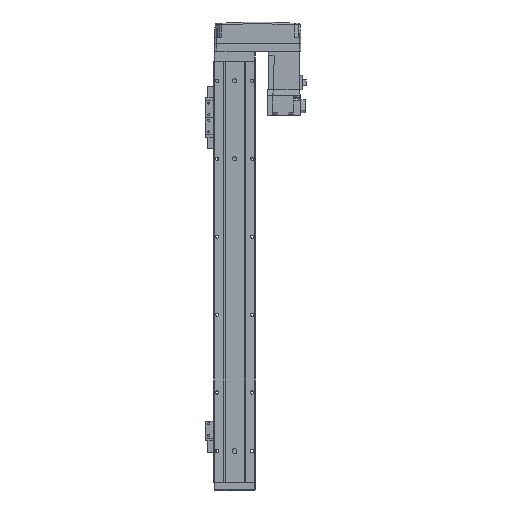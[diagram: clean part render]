
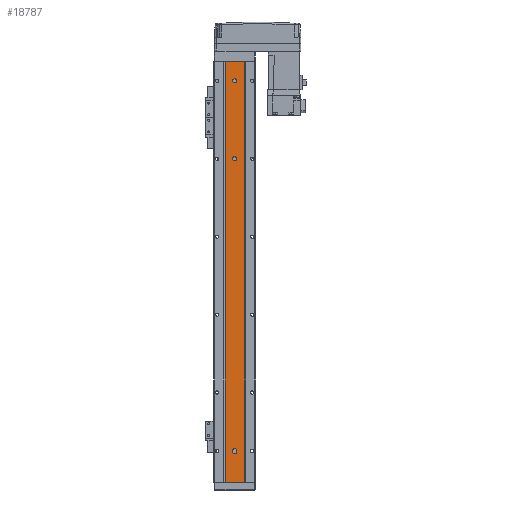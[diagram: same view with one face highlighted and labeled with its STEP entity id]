
A CAD part, front view. The second image highlights one B-rep face of the part: STEP entity #18787.
In plain terms, the highlighted planar face has unit normal (0, -1, 0).
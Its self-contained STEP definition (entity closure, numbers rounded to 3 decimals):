
#173 = CARTESIAN_POINT ( 'NONE',  ( 2.5, 1.5, -540. ) ) ;
#275 = EDGE_LOOP ( 'NONE', ( #17900, #37018 ) ) ;
#458 = CARTESIAN_POINT ( 'NONE',  ( -2.5, 1.5, -125. ) ) ;
#936 = ORIENTED_EDGE ( 'NONE', *, *, #7500, .F. ) ;
#1069 = EDGE_LOOP ( 'NONE', ( #36705, #25778, #24806, #19877 ) ) ;
#1077 = EDGE_CURVE ( 'NONE', #24398, #26416, #10677, .T. ) ;
#1163 = ORIENTED_EDGE ( 'NONE', *, *, #31878, .F. ) ;
#1405 = CIRCLE ( 'NONE', #27692, 2.5 ) ;
#1483 = CARTESIAN_POINT ( 'NONE',  ( 12.293, 1.5, 0. ) ) ;
#1499 = FACE_BOUND ( 'NONE', #20857, .T. ) ;
#2804 = VECTOR ( 'NONE', #28376, 1000. ) ;
#5463 = EDGE_CURVE ( 'NONE', #13238, #11815, #30032, .T. ) ;
#6275 = CIRCLE ( 'NONE', #34651, 2.5 ) ;
#6394 = VERTEX_POINT ( 'NONE', #8750 ) ;
#6531 = CARTESIAN_POINT ( 'NONE',  ( 0., 1.5, -501. ) ) ;
#6676 = CARTESIAN_POINT ( 'NONE',  ( 12.293, 1.5, -540. ) ) ;
#6786 = DIRECTION ( 'NONE',  ( 0., 0., 1. ) ) ;
#7046 = VECTOR ( 'NONE', #20732, 1000. ) ;
#7120 = DIRECTION ( 'NONE',  ( 0., -1., 0. ) ) ;
#7500 = EDGE_CURVE ( 'NONE', #23995, #23468, #15791, .T. ) ;
#7557 = CARTESIAN_POINT ( 'NONE',  ( 2.5, 1.5, -501. ) ) ;
#7659 = CIRCLE ( 'NONE', #30351, 2.5 ) ;
#8750 = CARTESIAN_POINT ( 'NONE',  ( -2.5, 1.5, -25. ) ) ;
#8821 = DIRECTION ( 'NONE',  ( 1., 0., 0. ) ) ;
#9648 = DIRECTION ( 'NONE',  ( 0., 0., -1. ) ) ;
#9722 = CARTESIAN_POINT ( 'NONE',  ( 0., 1.5, -25. ) ) ;
#10362 = CARTESIAN_POINT ( 'NONE',  ( 2.5, 1.5, -499. ) ) ;
#10482 = DIRECTION ( 'NONE',  ( 0., -1., 0. ) ) ;
#10677 = LINE ( 'NONE', #34472, #7046 ) ;
#10877 = VECTOR ( 'NONE', #25861, 1000. ) ;
#10925 = CARTESIAN_POINT ( 'NONE',  ( 12.293, 1.5, -540. ) ) ;
#11629 = EDGE_CURVE ( 'NONE', #11815, #13238, #6275, .T. ) ;
#11815 = VERTEX_POINT ( 'NONE', #25361 ) ;
#12347 = DIRECTION ( 'NONE',  ( 0., -1., 0. ) ) ;
#12528 = CARTESIAN_POINT ( 'NONE',  ( -12.293, 1.5, 0. ) ) ;
#12879 = DIRECTION ( 'NONE',  ( 0., -1., 0. ) ) ;
#13238 = VERTEX_POINT ( 'NONE', #458 ) ;
#13319 = DIRECTION ( 'NONE',  ( 1., 0., 0. ) ) ;
#13514 = EDGE_LOOP ( 'NONE', ( #1163, #27554, #23021, #936 ) ) ;
#13636 = LINE ( 'NONE', #18146, #14063 ) ;
#13865 = AXIS2_PLACEMENT_3D ( 'NONE', #17584, #12347, #32081 ) ;
#14063 = VECTOR ( 'NONE', #9648, 1000. ) ;
#14303 = EDGE_CURVE ( 'NONE', #6394, #21441, #1405, .T. ) ;
#15412 = VERTEX_POINT ( 'NONE', #26062 ) ;
#15791 = LINE ( 'NONE', #173, #10877 ) ;
#15863 = CARTESIAN_POINT ( 'NONE',  ( 2.5, 1.5, -25. ) ) ;
#16622 = AXIS2_PLACEMENT_3D ( 'NONE', #27739, #10482, #25064 ) ;
#16895 = VECTOR ( 'NONE', #17354, 1000. ) ;
#17354 = DIRECTION ( 'NONE',  ( 0., 0., 1. ) ) ;
#17584 = CARTESIAN_POINT ( 'NONE',  ( 0., 1.5, -125. ) ) ;
#17900 = ORIENTED_EDGE ( 'NONE', *, *, #24951, .F. ) ;
#18113 = FACE_OUTER_BOUND ( 'NONE', #1069, .T. ) ;
#18146 = CARTESIAN_POINT ( 'NONE',  ( -2.5, 1.5, -540. ) ) ;
#18787 = ADVANCED_FACE ( 'NONE', ( #30343, #1499, #24903, #18113 ), #21977, .T. ) ;
#19877 = ORIENTED_EDGE ( 'NONE', *, *, #28162, .T. ) ;
#20359 = CIRCLE ( 'NONE', #16622, 2.5 ) ;
#20732 = DIRECTION ( 'NONE',  ( 1., 0., 0. ) ) ;
#20857 = EDGE_LOOP ( 'NONE', ( #33284, #24358 ) ) ;
#21441 = VERTEX_POINT ( 'NONE', #15863 ) ;
#21536 = CARTESIAN_POINT ( 'NONE',  ( 0., 1.5, -25. ) ) ;
#21977 = PLANE ( 'NONE',  #22069 ) ;
#22069 = AXIS2_PLACEMENT_3D ( 'NONE', #10925, #36602, #13319 ) ;
#22979 = EDGE_CURVE ( 'NONE', #30508, #29768, #13636, .T. ) ;
#23021 = ORIENTED_EDGE ( 'NONE', *, *, #33040, .F. ) ;
#23468 = VERTEX_POINT ( 'NONE', #10362 ) ;
#23995 = VERTEX_POINT ( 'NONE', #7557 ) ;
#24355 = CARTESIAN_POINT ( 'NONE',  ( 0., 1.5, -125. ) ) ;
#24358 = ORIENTED_EDGE ( 'NONE', *, *, #5463, .F. ) ;
#24398 = VERTEX_POINT ( 'NONE', #34688 ) ;
#24580 = LINE ( 'NONE', #28624, #16895 ) ;
#24806 = ORIENTED_EDGE ( 'NONE', *, *, #1077, .T. ) ;
#24903 = FACE_BOUND ( 'NONE', #275, .T. ) ;
#24951 = EDGE_CURVE ( 'NONE', #21441, #6394, #30915, .T. ) ;
#25064 = DIRECTION ( 'NONE',  ( 1., 0., 0. ) ) ;
#25134 = CARTESIAN_POINT ( 'NONE',  ( -2.5, 1.5, -499. ) ) ;
#25361 = CARTESIAN_POINT ( 'NONE',  ( 2.5, 1.5, -125. ) ) ;
#25778 = ORIENTED_EDGE ( 'NONE', *, *, #36581, .F. ) ;
#25861 = DIRECTION ( 'NONE',  ( 0., 0., 1. ) ) ;
#26062 = CARTESIAN_POINT ( 'NONE',  ( 12.293, 1.5, 0. ) ) ;
#26416 = VERTEX_POINT ( 'NONE', #6676 ) ;
#26556 = DIRECTION ( 'NONE',  ( 0., -1., 0. ) ) ;
#27303 = DIRECTION ( 'NONE',  ( 1., 0., 0. ) ) ;
#27480 = AXIS2_PLACEMENT_3D ( 'NONE', #21536, #12879, #29777 ) ;
#27554 = ORIENTED_EDGE ( 'NONE', *, *, #22979, .F. ) ;
#27692 = AXIS2_PLACEMENT_3D ( 'NONE', #9722, #35866, #32949 ) ;
#27739 = CARTESIAN_POINT ( 'NONE',  ( 0., 1.5, -499. ) ) ;
#28162 = EDGE_CURVE ( 'NONE', #26416, #15412, #29292, .T. ) ;
#28376 = DIRECTION ( 'NONE',  ( 1., 0., 0. ) ) ;
#28624 = CARTESIAN_POINT ( 'NONE',  ( -12.293, 1.5, -540. ) ) ;
#29292 = LINE ( 'NONE', #35730, #34185 ) ;
#29421 = LINE ( 'NONE', #1483, #2804 ) ;
#29768 = VERTEX_POINT ( 'NONE', #36268 ) ;
#29777 = DIRECTION ( 'NONE',  ( 1., 0., 0. ) ) ;
#30032 = CIRCLE ( 'NONE', #13865, 2.5 ) ;
#30343 = FACE_BOUND ( 'NONE', #13514, .T. ) ;
#30351 = AXIS2_PLACEMENT_3D ( 'NONE', #6531, #26556, #8821 ) ;
#30508 = VERTEX_POINT ( 'NONE', #25134 ) ;
#30776 = VERTEX_POINT ( 'NONE', #12528 ) ;
#30915 = CIRCLE ( 'NONE', #27480, 2.5 ) ;
#31878 = EDGE_CURVE ( 'NONE', #29768, #23995, #7659, .T. ) ;
#32081 = DIRECTION ( 'NONE',  ( 1., 0., 0. ) ) ;
#32949 = DIRECTION ( 'NONE',  ( 1., 0., 0. ) ) ;
#33040 = EDGE_CURVE ( 'NONE', #23468, #30508, #20359, .T. ) ;
#33284 = ORIENTED_EDGE ( 'NONE', *, *, #11629, .F. ) ;
#33690 = EDGE_CURVE ( 'NONE', #30776, #15412, #29421, .T. ) ;
#34185 = VECTOR ( 'NONE', #6786, 1000. ) ;
#34472 = CARTESIAN_POINT ( 'NONE',  ( 12.293, 1.5, -540. ) ) ;
#34651 = AXIS2_PLACEMENT_3D ( 'NONE', #24355, #7120, #27303 ) ;
#34688 = CARTESIAN_POINT ( 'NONE',  ( -12.293, 1.5, -540. ) ) ;
#35730 = CARTESIAN_POINT ( 'NONE',  ( 12.293, 1.5, -540. ) ) ;
#35866 = DIRECTION ( 'NONE',  ( 0., -1., 0. ) ) ;
#36268 = CARTESIAN_POINT ( 'NONE',  ( -2.5, 1.5, -501. ) ) ;
#36581 = EDGE_CURVE ( 'NONE', #24398, #30776, #24580, .T. ) ;
#36602 = DIRECTION ( 'NONE',  ( 0., -1., 0. ) ) ;
#36705 = ORIENTED_EDGE ( 'NONE', *, *, #33690, .F. ) ;
#37018 = ORIENTED_EDGE ( 'NONE', *, *, #14303, .F. ) ;
